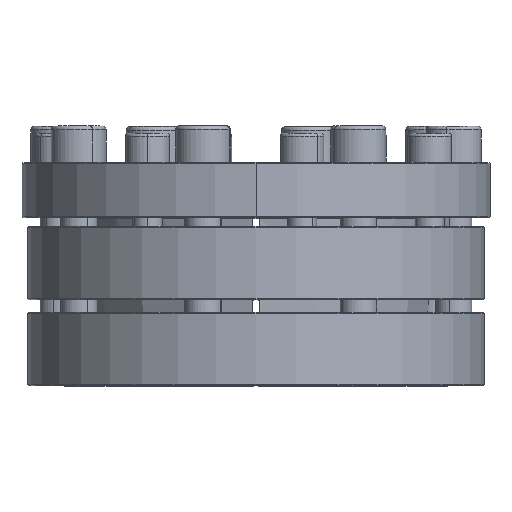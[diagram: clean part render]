
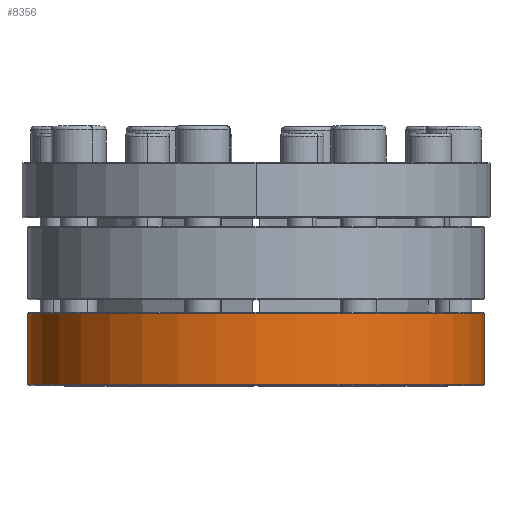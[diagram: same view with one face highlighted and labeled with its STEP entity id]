
A CAD part, top view. The second image highlights one B-rep face of the part: STEP entity #8356.
In plain terms, the highlighted cylindrical face has radius 125 mm (diameter 250 mm), a partial arc.
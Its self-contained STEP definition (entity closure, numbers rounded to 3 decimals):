
#181 = EDGE_CURVE ( 'NONE', #16884, #19751, #12075, .T. ) ;
#770 = DIRECTION ( 'NONE',  ( 0., -1., 0. ) ) ;
#2784 = CYLINDRICAL_SURFACE ( 'NONE', #20781, 125. ) ;
#2934 = CARTESIAN_POINT ( 'NONE',  ( 0., 0.5, 0. ) ) ;
#3045 = CARTESIAN_POINT ( 'NONE',  ( 0., 39.5, 0. ) ) ;
#3504 = ORIENTED_EDGE ( 'NONE', *, *, #181, .T. ) ;
#4848 = VECTOR ( 'NONE', #22231, 1000. ) ;
#4896 = DIRECTION ( 'NONE',  ( 0., 0., 1. ) ) ;
#4978 = DIRECTION ( 'NONE',  ( 0., 0., -1. ) ) ;
#5218 = CARTESIAN_POINT ( 'NONE',  ( -1.5, 0., -124.991 ) ) ;
#5455 = LINE ( 'NONE', #8594, #4848 ) ;
#5789 = VERTEX_POINT ( 'NONE', #18058 ) ;
#6067 = VECTOR ( 'NONE', #7182, 1000. ) ;
#6473 = CARTESIAN_POINT ( 'NONE',  ( 0., 0., 0. ) ) ;
#6720 = EDGE_CURVE ( 'NONE', #5789, #16884, #17056, .T. ) ;
#7182 = DIRECTION ( 'NONE',  ( 0., -1., 0. ) ) ;
#8356 = ADVANCED_FACE ( 'NONE', ( #9826 ), #2784, .T. ) ;
#8534 = EDGE_CURVE ( 'NONE', #19751, #22818, #16790, .T. ) ;
#8594 = CARTESIAN_POINT ( 'NONE',  ( 1.5, 0., -124.991 ) ) ;
#9465 = ORIENTED_EDGE ( 'NONE', *, *, #20874, .T. ) ;
#9826 = FACE_OUTER_BOUND ( 'NONE', #13888, .T. ) ;
#9918 = CARTESIAN_POINT ( 'NONE',  ( 1.5, 0.5, -124.991 ) ) ;
#10583 = DIRECTION ( 'NONE',  ( 0., 0., -1. ) ) ;
#10790 = CARTESIAN_POINT ( 'NONE',  ( 0., 0.5, 125. ) ) ;
#11085 = CARTESIAN_POINT ( 'NONE',  ( 0., 0.5, 0. ) ) ;
#12075 = CIRCLE ( 'NONE', #21252, 125. ) ;
#12652 = AXIS2_PLACEMENT_3D ( 'NONE', #3045, #16674, #4978 ) ;
#13016 = DIRECTION ( 'NONE',  ( 0., 0., 1. ) ) ;
#13888 = EDGE_LOOP ( 'NONE', ( #24110, #21911, #3504, #24058, #9465 ) ) ;
#16573 = DIRECTION ( 'NONE',  ( 0., 1., 0. ) ) ;
#16674 = DIRECTION ( 'NONE',  ( 0., -1., 0. ) ) ;
#16790 = CIRCLE ( 'NONE', #18979, 125. ) ;
#16884 = VERTEX_POINT ( 'NONE', #20886 ) ;
#16915 = VERTEX_POINT ( 'NONE', #24968 ) ;
#17056 = LINE ( 'NONE', #5218, #6067 ) ;
#18058 = CARTESIAN_POINT ( 'NONE',  ( -1.5, 39.5, -124.991 ) ) ;
#18979 = AXIS2_PLACEMENT_3D ( 'NONE', #11085, #24703, #13016 ) ;
#19751 = VERTEX_POINT ( 'NONE', #10790 ) ;
#20781 = AXIS2_PLACEMENT_3D ( 'NONE', #6473, #770, #10583 ) ;
#20874 = EDGE_CURVE ( 'NONE', #22818, #16915, #5455, .T. ) ;
#20886 = CARTESIAN_POINT ( 'NONE',  ( -1.5, 0.5, -124.991 ) ) ;
#21252 = AXIS2_PLACEMENT_3D ( 'NONE', #2934, #16573, #4896 ) ;
#21696 = CIRCLE ( 'NONE', #12652, 125. ) ;
#21911 = ORIENTED_EDGE ( 'NONE', *, *, #6720, .T. ) ;
#22231 = DIRECTION ( 'NONE',  ( 0., 1., 0. ) ) ;
#22818 = VERTEX_POINT ( 'NONE', #9918 ) ;
#24058 = ORIENTED_EDGE ( 'NONE', *, *, #8534, .T. ) ;
#24110 = ORIENTED_EDGE ( 'NONE', *, *, #24925, .T. ) ;
#24703 = DIRECTION ( 'NONE',  ( 0., 1., 0. ) ) ;
#24925 = EDGE_CURVE ( 'NONE', #16915, #5789, #21696, .T. ) ;
#24968 = CARTESIAN_POINT ( 'NONE',  ( 1.5, 39.5, -124.991 ) ) ;
